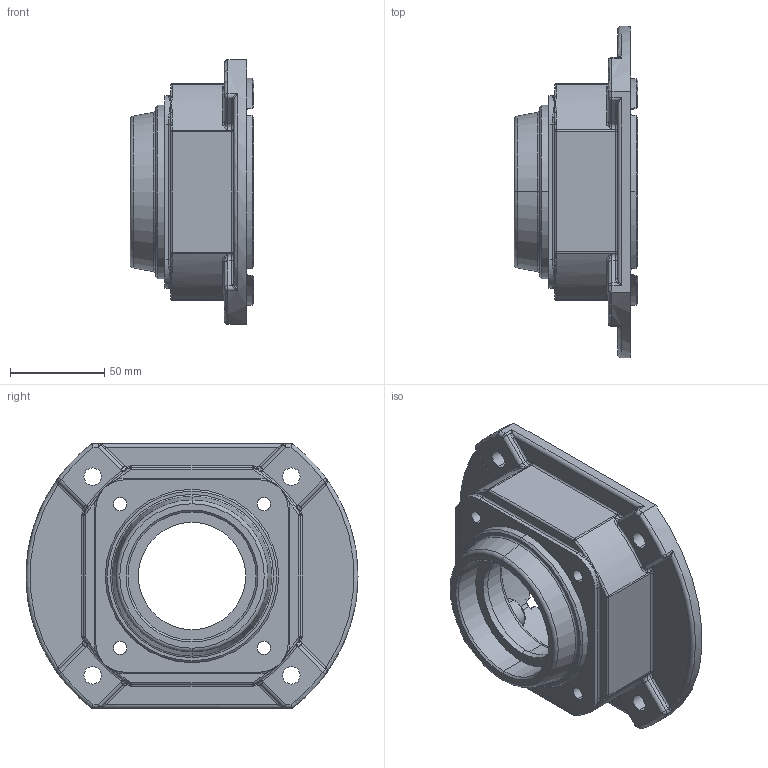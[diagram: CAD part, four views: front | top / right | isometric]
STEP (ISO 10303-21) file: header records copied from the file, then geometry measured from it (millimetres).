
FILE_DESCRIPTION (( 'STEP AP203' ), '1' );
FILE_NAME ('KFYM0451761S.STEP', '2020-05-05T07:36:18', ( 'Microsoft' ), ( 'Microsoft' ), 'SwSTEP 2.0', 'SolidWorks 2012', '' );
FILE_SCHEMA (( 'CONFIG_CONTROL_DESIGN' ));
Length unit declared in the file: millimetre
Products named in the file (1): KFYM0451761S
Bounding box: 65.76 x 176.28 x 140.46 mm (x, y, z)
Volume: 310915 mm3; surface area: 88125 mm2
Topology: 1 solids, 1 shells, 469 faces, 1137 edges, 661 vertices
Faces by surface type: torus 133, cylinder 125, bspline 80, plane 63, cone 48, sphere 20
Entity records: 16318 total; most frequent: CARTESIAN_POINT 5642, DIRECTION 2339, ORIENTED_EDGE 2226, EDGE_CURVE 1113, AXIS2_PLACEMENT_3D 1046, VERTEX_POINT 657, CIRCLE 656, EDGE_LOOP 498
